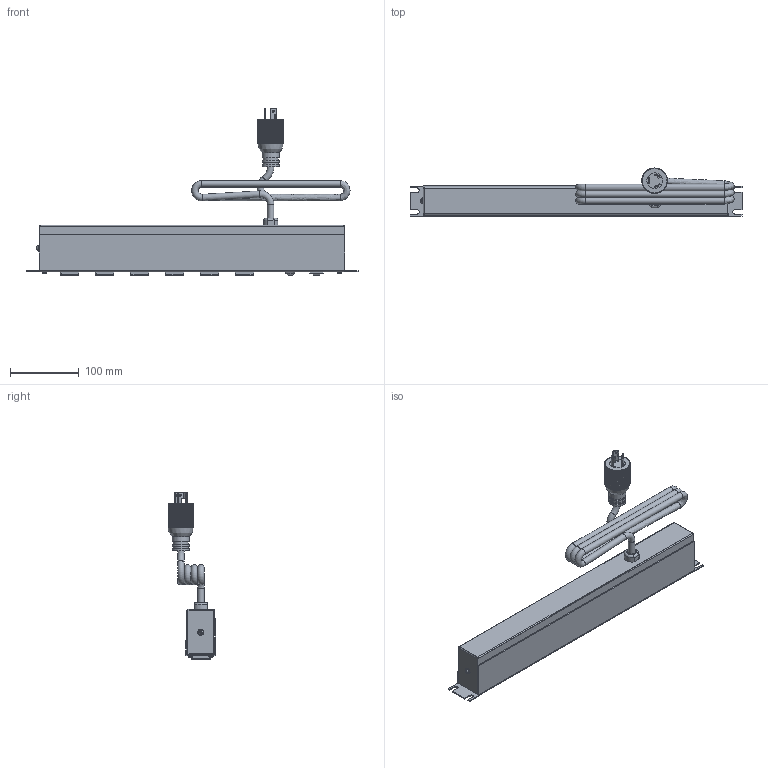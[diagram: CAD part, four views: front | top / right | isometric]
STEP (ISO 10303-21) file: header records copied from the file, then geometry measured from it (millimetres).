
FILE_DESCRIPTION((''),'2;1');
FILE_NAME('E:\Dutton\Manufacturing\drawings\Updated 2009\POWER BARS\1582 RA series\STEP''s\1582H6C1BKRA.stp','2010-01-11T06:52:31',('tfoster'),(''),'Autodesk Inventor 2010','Autodesk Inventor 2010','');
FILE_SCHEMA(('AUTOMOTIVE_DESIGN { 1 0 10303 214 1 1 1 1 }'));
Products named in the file (12): 1582H6C1BKRA; 1582 Front plate; 1582 Back Plate; #6 - 0.375 Type A screw; toothwasher; round head 1-way 8-32 x 0.5 screw; Reset Switch; Power Switch Assembly; Power Switch; Power Switch pt; Twist Cored 2; Receptacle
Assembly tree (19 placements, depth 3):
  1582H6C1BKRA
    1582 Front plate
    1582 Back Plate
    #6 - 0.375 Type A screw  x4
    toothwasher
    round head 1-way 8-32 x 0.5 screw
    Reset Switch
    Power Switch Assembly
      Power Switch
      Power Switch pt
    Twist Cored 2
    Receptacle  x6
Bounding box: 482.6 x 69.48 x 242.61 mm (x, y, z)
Volume: 393366 mm3; surface area: 308441.4 mm2
Topology: 18 solids, 18 shells, 1112 faces, 3152 edges, 2083 vertices
Faces by surface type: plane 756, cylinder 211, bspline 78, sphere 29, cone 23, torus 15
Full cylindrical faces by diameter (mm): 1 x2, 1.803 x3, 1.905 x2, 2.286 x1, 2.997 x4, 3.175 x3, 4.3 x1, 4.801 x1, 5.563 x4, 7.849 x1, 9.5 x5, 11 x1, 21.59 x2, 22.86 x1, 24.765 x3
Entity records: 27931 total; most frequent: CARTESIAN_POINT 8331, ORIENTED_EDGE 4148, DIRECTION 3738, EDGE_CURVE 2074, VERTEX_POINT 1413, VECTOR 1354, LINE 1354, AXIS2_PLACEMENT_3D 1192
